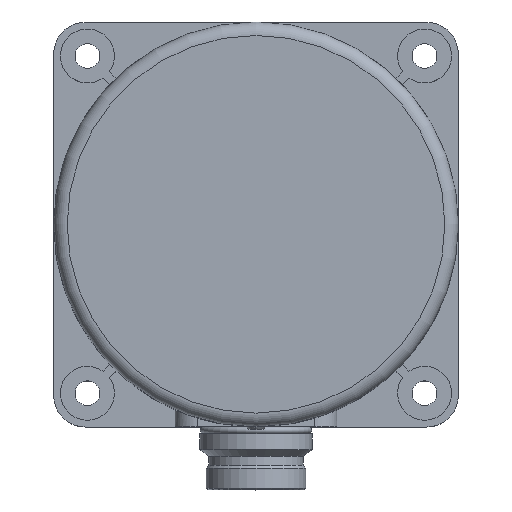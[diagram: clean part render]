
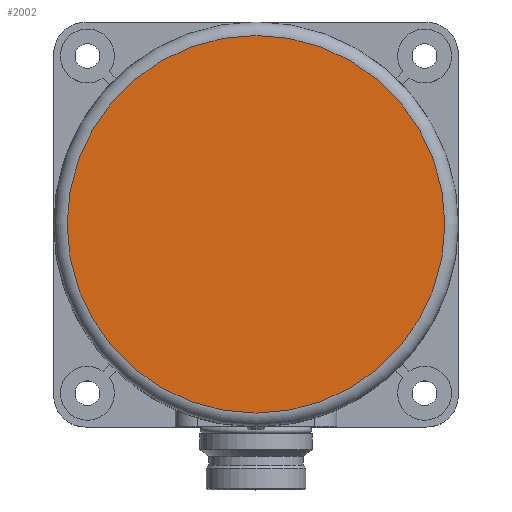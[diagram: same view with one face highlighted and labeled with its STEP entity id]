
A CAD part, top view. The second image highlights one B-rep face of the part: STEP entity #2002.
In plain terms, the highlighted planar face has unit normal (0, 0, 1).
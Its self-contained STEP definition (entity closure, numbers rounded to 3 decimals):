
#1705=CARTESIAN_POINT('',(42.0,0.,52.0));
#1706=VERTEX_POINT('',#1705);
#1707=CARTESIAN_POINT('',(0.0,0.0,52.0));
#1708=DIRECTION('',(0.0,0.0,-1.0));
#1709=DIRECTION('',(-1.0,0.0,0.0));
#1710=AXIS2_PLACEMENT_3D('',#1707,#1708,#1709);
#1711=CIRCLE('',#1710,42.0);
#1712=EDGE_CURVE('',#1706,#1706,#1711,.T.);
#1994=CARTESIAN_POINT('',(0.0,0.0,52.0));
#1995=DIRECTION('',(0.0,0.0,-1.0));
#1996=DIRECTION('',(-1.0,0.0,0.0));
#1997=AXIS2_PLACEMENT_3D('',#1994,#1995,#1996);
#1998=PLANE('',#1997);
#1999=ORIENTED_EDGE('',*,*,#1712,.F.);
#2000=EDGE_LOOP('',(#1999));
#2001=FACE_OUTER_BOUND('',#2000,.T.);
#2002=ADVANCED_FACE('',(#2001),#1998,.F.);
